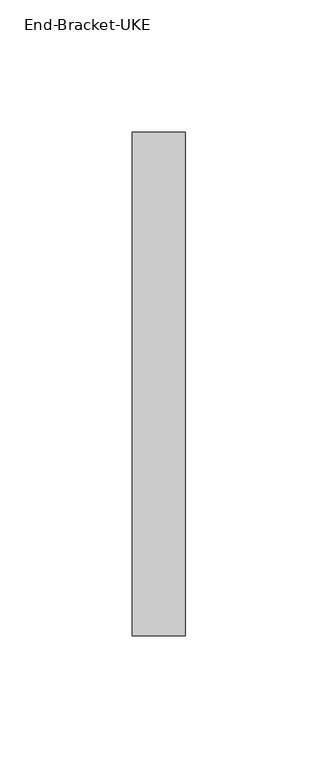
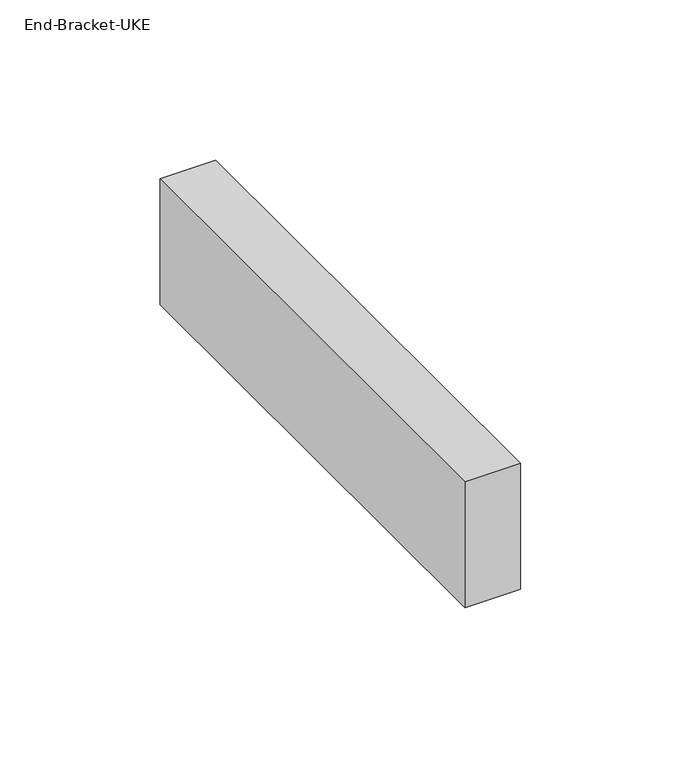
"""IFC4 building model written with IfcOpenShell, lengths in millimetres: cable carrier fitting geometry, Electrical-Installations_Hager_End-Bracket-UKE : End-Bracket-UKE."""

from ifc_helpers import new_model, si_unit, frame, origin, place, context, project, spatial, polyline, outline, extrude, source, transform, mapped, element, save


def end_bracket_uke_cbfa7e48(model_context):
    return source(origin(), model_context, "Body", "SweptSolid", [
        extrude(outline(polyline([(0.0, -95.0), (0.0, 95.0), (20.0, 95.0), (20.0, -95.0), (0.0, -95.0)])), frame((0.0, 0.0, -24.0), z_axis=(0.0, 0.0, 1.0), x_axis=(1.0, 0.0, 0.0)), (0.0, 0.0, 1.0), 48.0),
    ])


if __name__ == "__main__":
    model = new_model("IFC4")
    model_context = context("Model", 3, world=origin())
    ifc_project = project(units=[si_unit("LENGTHUNIT", "METRE", prefix="MILLI")], contexts=[model_context])
    site = spatial("IfcSite", under=ifc_project)
    building = spatial("IfcBuilding", under=site)
    placement = place(None, origin())
    end_bracket_uke_shape = end_bracket_uke_cbfa7e48(model_context)
    element("IfcCableCarrierFitting", 1, ObjectType="Electrical-Installations_Hager_End-Bracket-UKE : End-Bracket-UKE", at=placement, inside=building, context=model_context, shape_type="MappedRepresentation", body=[
        mapped(end_bracket_uke_shape, transform((0.0, 0.0, 0.0), x_axis=(1.0, 0.0, 0.0), y_axis=(0.0, 1.0, 0.0), z_axis=(0.0, 0.0, 1.0))),
    ])
    save(model, "model.ifc")
